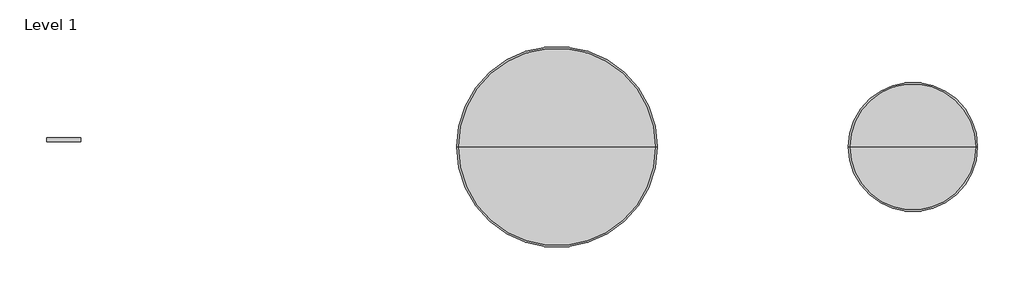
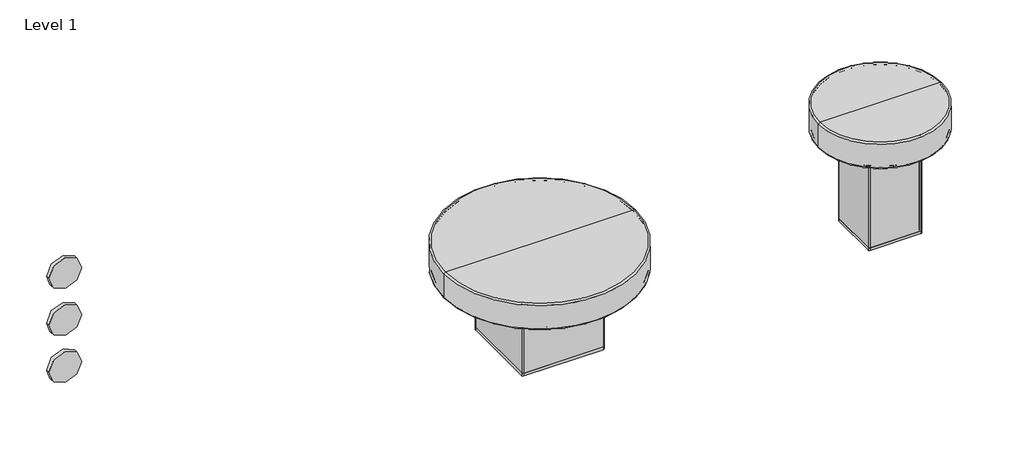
# One storey: 3 proxies, 2 furniture elements.
"""IFC4 building model written with IfcOpenShell, lengths in millimetres."""

from ifc_helpers import new_model, si_unit, origin, place, context, project, spatial, transform, mapped, element, save
from components import materialmodel_materialmodel_43b225cb, furniture_36564df5, furniture_f807c984

model = new_model("IFC4")

# Units and contexts
model_context = context("Model", 3, world=origin())
ifc_project = project(units=[si_unit("LENGTHUNIT", "METRE", prefix="MILLI")], contexts=[model_context])

# Site, building, storey
site = spatial("IfcSite", under=ifc_project)
building = spatial("IfcBuilding", under=site)
storey = spatial("IfcBuildingStorey", under=building, Name="Level 1", Elevation=0.0)

# Proxies
placement = place(None, origin())
materialmodel_materialmodel_shape = materialmodel_materialmodel_43b225cb(model_context)
element("IfcBuildingElementProxy", 1, Name="MaterialModel : MaterialModel", ObjectType="MaterialModel : MaterialModel", at=placement, inside=storey, context=model_context, shape_type="MappedRepresentation", body=[
    mapped(materialmodel_materialmodel_shape, transform((-5816.7088153, 2696.6400951, 837.0510493), x_axis=(1.0, 0.0, 0.0), y_axis=(0.0, 1.0, 0.0), z_axis=(0.0, 0.0, 1.0))),
])
element("IfcBuildingElementProxy", 2, Name="MaterialModel : MaterialModel", ObjectType="MaterialModel : MaterialModel", at=placement, inside=storey, context=model_context, shape_type="MappedRepresentation", body=[
    mapped(materialmodel_materialmodel_shape, transform((-5816.7088153, 2696.6400951, 656.0492799), x_axis=(1.0, 0.0, 0.0), y_axis=(0.0, 1.0, 0.0), z_axis=(0.0, 0.0, 1.0))),
])
element("IfcBuildingElementProxy", 3, Name="MaterialModel : MaterialModel", ObjectType="MaterialModel : MaterialModel", at=placement, inside=storey, context=model_context, shape_type="MappedRepresentation", body=[
    mapped(materialmodel_materialmodel_shape, transform((-5816.7088153, 2696.6400951, 475.0475105), x_axis=(1.0, 0.0, 0.0), y_axis=(0.0, 1.0, 0.0), z_axis=(0.0, 0.0, 1.0))),
])

# Furniture
furniture_shape = furniture_36564df5(model_context)
element("IfcFurniture", 4, ObjectType="Norr11 - Naked - Side Table : Norr11 - Naked - Side Table", at=placement, inside=storey, context=model_context, shape_type="MappedRepresentation", body=[
    mapped(furniture_shape, transform((-2855.3813534, 2675.1900495, 0.0), x_axis=(1.0, 0.0, 0.0), y_axis=(0.0, 1.0, 0.0), z_axis=(0.0, 0.0, 1.0))),
])
furniture_2_shape = furniture_f807c984(model_context)
element("IfcFurniture", 5, ObjectType="Norr11 - Naked - Coffee Table : Norr11 - Naked - Coffee Table", at=placement, inside=storey, context=model_context, shape_type="MappedRepresentation", body=[
    mapped(furniture_2_shape, transform((-4096.6815722, 2675.1900495, 0.0), x_axis=(1.0, 0.0, 0.0), y_axis=(0.0, 1.0, 0.0), z_axis=(0.0, 0.0, 1.0))),
])

save(model, "model.ifc")
